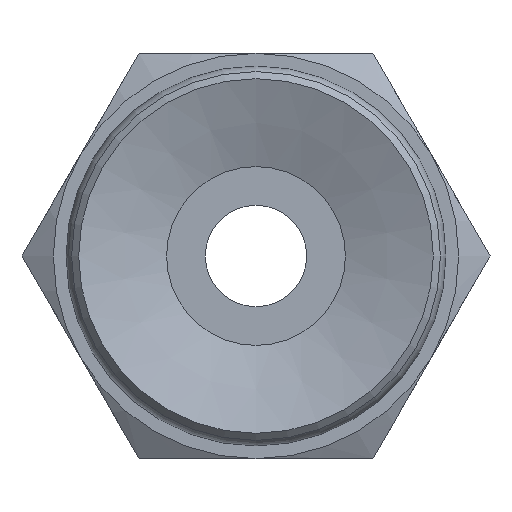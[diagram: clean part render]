
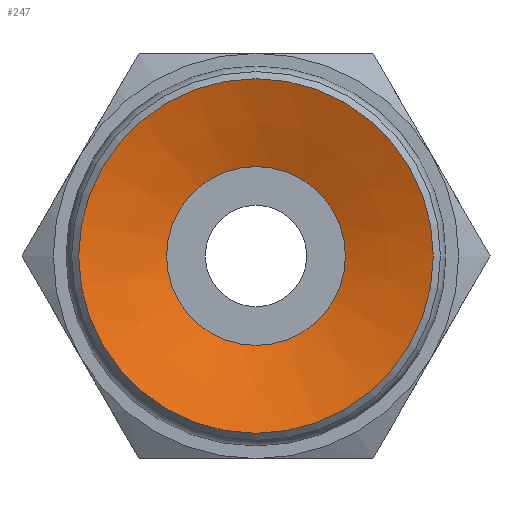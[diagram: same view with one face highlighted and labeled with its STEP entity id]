
A CAD part, front view. The second image highlights one B-rep face of the part: STEP entity #247.
In plain terms, the highlighted conical face has half-angle 70 degrees and reference radius 3.5 mm.
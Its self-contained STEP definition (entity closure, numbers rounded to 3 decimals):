
#247=ADVANCED_FACE('',(#359,#360),#361,.F.);
#359=FACE_BOUND('',#510,.T.);
#360=FACE_OUTER_BOUND('',#511,.T.);
#361=CONICAL_SURFACE('',#512,3.5,1.222);
#510=EDGE_LOOP('',(#796));
#511=EDGE_LOOP('',(#797));
#512=AXIS2_PLACEMENT_3D('',#798,#799,#800);
#796=ORIENTED_EDGE('',*,*,#957,.F.);
#797=ORIENTED_EDGE('',*,*,#949,.T.);
#798=CARTESIAN_POINT('',(0.0,0.0,0.0));
#799=DIRECTION('',(-0.0,-1.0,0.));
#800=DIRECTION('',(0.0,0.,-1.0));
#949=EDGE_CURVE('',#1063,#1063,#1064,.T.);
#957=EDGE_CURVE('',#1079,#1079,#1080,.T.);
#1063=VERTEX_POINT('',#1257);
#1064=CIRCLE('',#1258,3.5);
#1079=VERTEX_POINT('',#1273);
#1080=CIRCLE('',#1274,1.765);
#1257=CARTESIAN_POINT('',(0.0,0.,-3.5));
#1258=AXIS2_PLACEMENT_3D('',#1384,#1385,#1386);
#1273=CARTESIAN_POINT('',(0.0,0.632,-1.765));
#1274=AXIS2_PLACEMENT_3D('',#1408,#1409,#1410);
#1384=CARTESIAN_POINT('',(0.0,0.0,0.0));
#1385=DIRECTION('',(0.0,-1.0,0.));
#1386=DIRECTION('',(0.0,0.,-1.0));
#1408=CARTESIAN_POINT('',(0.0,0.632,0.0));
#1409=DIRECTION('',(0.0,-1.0,0.));
#1410=DIRECTION('',(0.0,0.,-1.0));
